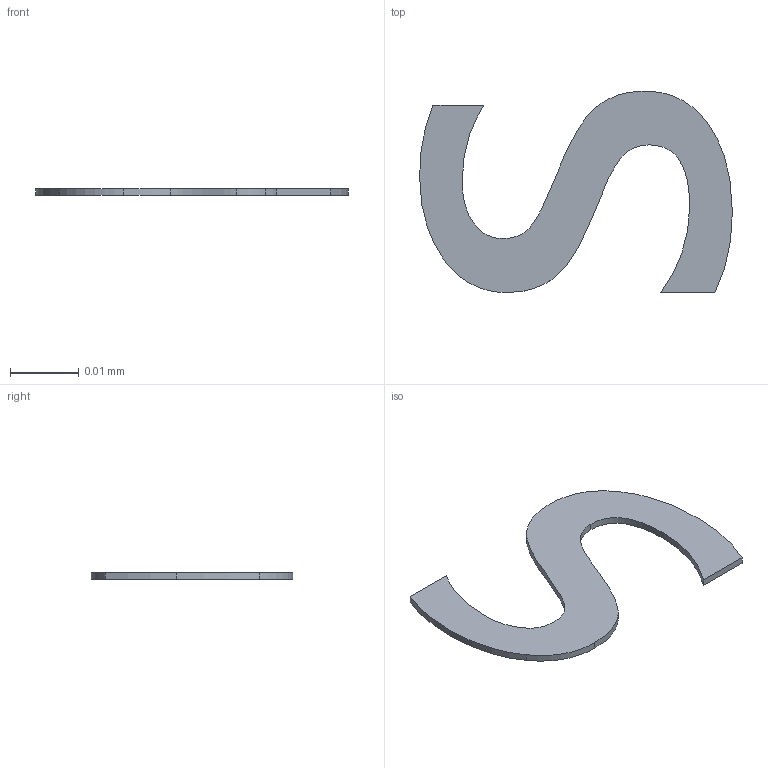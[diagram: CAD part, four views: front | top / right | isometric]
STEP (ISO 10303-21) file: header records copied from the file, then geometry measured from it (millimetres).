
FILE_DESCRIPTION(/* description */ ('STEP AP242 Edition 2','CAx-IF Rec.Pracs.---Representation and Presentation of Product Manufacturing Information (PMI)---4.0---2014-10-13','CAx-IF Rec.Pracs.---3D Tessellated Geometry---0.4---2014-09-14','2;1','CAx-IF Rec.Pracs.---User Defined Attributes---1.5---2016-08-15'),/* implementation_level */ '2;1');
FILE_NAME(/* name */ 'Assembly 1 - SOT-23-3_L2.9-W1.3-P0.95-LS2.4-BR~SOT-23-3P_L2.9-W1.3-H1.0-LS2.4-P0.95~nxQB (1)',/* time_stamp */ '2026-04-02T09:55:23Z',/* author */ (''),/* organization */ (''),/* preprocessor_version */ 'ST-DEVELOPER v20',/* originating_system */ 'ONSHAPE BY PTC INC, 1.212',/* authorisation */ ' ');
FILE_SCHEMA (('AP242_MANAGED_MODEL_BASED_3D_ENGINEERING_MIM_LF { 1 0 10303 442 3 1 4 }'));
Length unit declared in the file: metre
Products named in the file (1): SOT-23-3_L2.9-W1.3-P0.95-LS2.4-BR~SOT-23-3P_L2.9-W1.3-H1.0-LS2.4-P0.9
5~nxQB
Bounding box: 0.05 x 0.03 x 0 mm (x, y, z)
Volume: 0 mm3; surface area: 0 mm2
Topology: 1 solids, 1 shells, 23 faces, 63 edges, 42 vertices
Faces by surface type: bspline 19, plane 4
Entity records: 1015 total; most frequent: CARTESIAN_POINT 370, ORIENTED_EDGE 126, EDGE_CURVE 63, VERTEX_POINT 42, DIRECTION 39, B_SPLINE_CURVE_WITH_KNOTS 36, LINE 25, VECTOR 25
